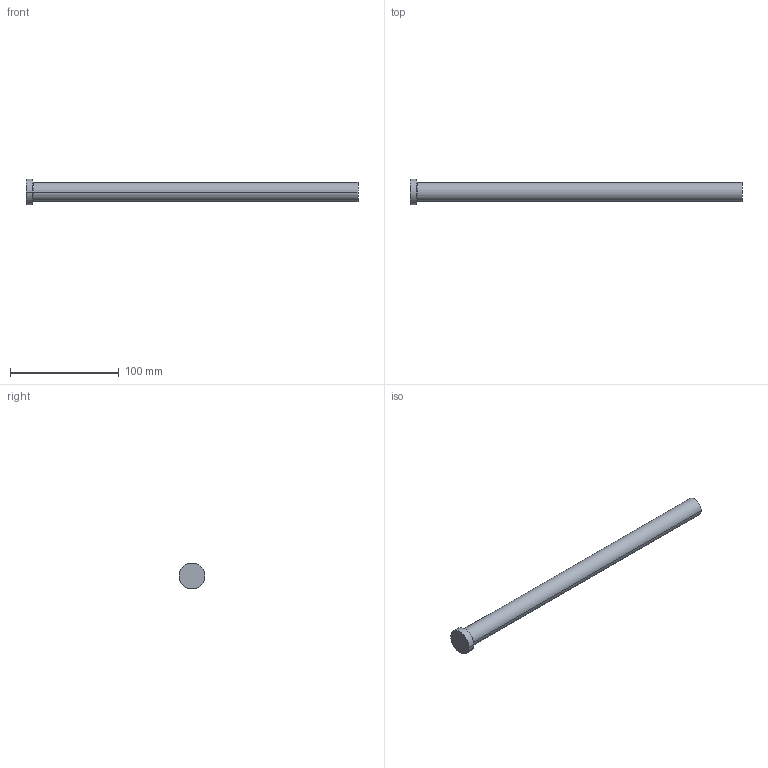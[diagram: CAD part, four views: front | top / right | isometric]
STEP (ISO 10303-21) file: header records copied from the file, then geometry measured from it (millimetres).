
FILE_DESCRIPTION (( 'STEP AP214' ), '1' );
FILE_NAME ('P39-12.STEP', '2020-03-12T12:12:15', ( '' ), ( '' ), 'SwSTEP 2.0', 'SolidWorks 2018', '' );
FILE_SCHEMA (( 'AUTOMOTIVE_DESIGN' ));
Length unit declared in the file: inch
Products named in the file (1): P39-12
Bounding box: 304.8 x 23.81 x 23.81 mm (x, y, z)
Volume: 74208.5 mm3; surface area: 17700.2 mm2
Topology: 1 solids, 1 shells, 13 faces, 24 edges, 14 vertices
Faces by surface type: cone 4, cylinder 4, plane 3, torus 2
Entity records: 366 total; most frequent: DIRECTION 68, CARTESIAN_POINT 52, ORIENTED_EDGE 48, AXIS2_PLACEMENT_3D 30, EDGE_CURVE 24, CIRCLE 16, EDGE_LOOP 14, VERTEX_POINT 14
